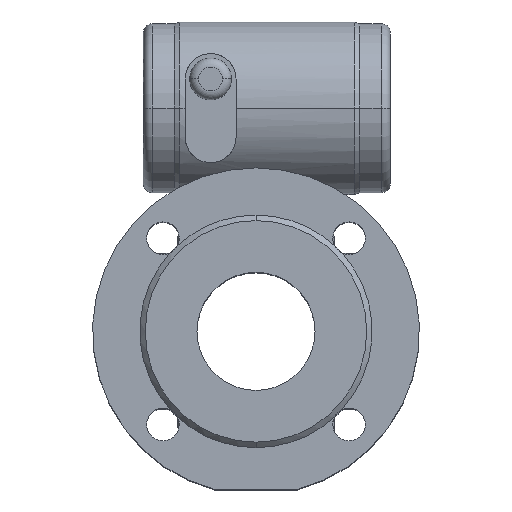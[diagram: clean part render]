
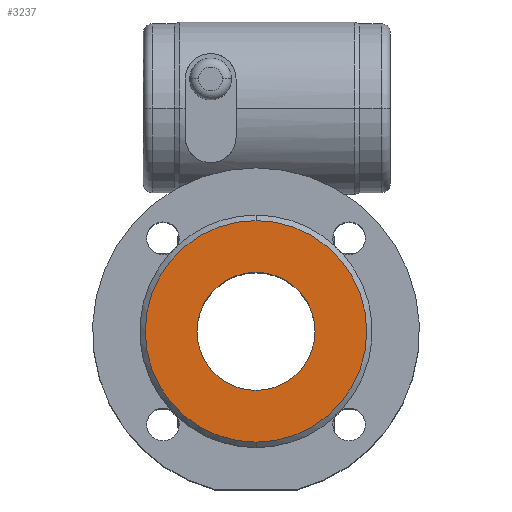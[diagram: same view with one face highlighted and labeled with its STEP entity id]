
A CAD part, top view. The second image highlights one B-rep face of the part: STEP entity #3237.
In plain terms, the highlighted planar face has unit normal (0, 0, 1).
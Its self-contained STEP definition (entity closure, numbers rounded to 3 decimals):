
#667 = AXIS2_PLACEMENT_3D ( 'NONE', #3539, #3540, #3544 ) ;
#785 = DIRECTION ( 'NONE',  ( 0., 1., 0. ) ) ;
#792 = DIRECTION ( 'NONE',  ( 0., 0., -1. ) ) ;
#795 = CARTESIAN_POINT ( 'NONE',  ( 0., 0., 15. ) ) ;
#858 = DIRECTION ( 'NONE',  ( 0., 1., 0. ) ) ;
#937 = FACE_BOUND ( 'NONE', #1924, .T. ) ;
#940 = VERTEX_POINT ( 'NONE', #5232 ) ;
#1095 = CARTESIAN_POINT ( 'NONE',  ( 0., 32.5, 15. ) ) ;
#1302 = EDGE_CURVE ( 'NONE', #940, #4432, #5949, .T. ) ;
#1336 = DIRECTION ( 'NONE',  ( 0., 0., -1. ) ) ;
#1707 = AXIS2_PLACEMENT_3D ( 'NONE', #5739, #1336, #858 ) ;
#1788 = AXIS2_PLACEMENT_3D ( 'NONE', #5269, #5266, #5260 ) ;
#1801 = VERTEX_POINT ( 'NONE', #3681 ) ;
#1804 = ORIENTED_EDGE ( 'NONE', *, *, #1302, .F. ) ;
#1924 = EDGE_LOOP ( 'NONE', ( #2901, #5524 ) ) ;
#2078 = CIRCLE ( 'NONE', #4386, 32.5 ) ;
#2124 = AXIS2_PLACEMENT_3D ( 'NONE', #2199, #2422, #5358 ) ;
#2199 = CARTESIAN_POINT ( 'NONE',  ( 0., 32.5, 15. ) ) ;
#2227 = FACE_OUTER_BOUND ( 'NONE', #5192, .T. ) ;
#2422 = DIRECTION ( 'NONE',  ( 0., 0., 1. ) ) ;
#2736 = EDGE_CURVE ( 'NONE', #1801, #3203, #2078, .T. ) ;
#2804 = CARTESIAN_POINT ( 'NONE',  ( 0., -61., 15. ) ) ;
#2901 = ORIENTED_EDGE ( 'NONE', *, *, #5975, .T. ) ;
#3203 = VERTEX_POINT ( 'NONE', #1095 ) ;
#3237 = ADVANCED_FACE ( 'NONE', ( #937, #2227 ), #5100, .T. ) ;
#3442 = CIRCLE ( 'NONE', #667, 61. ) ;
#3539 = CARTESIAN_POINT ( 'NONE',  ( 0., 0., 15. ) ) ;
#3540 = DIRECTION ( 'NONE',  ( 0., 0., -1. ) ) ;
#3544 = DIRECTION ( 'NONE',  ( 0., 1., 0. ) ) ;
#3681 = CARTESIAN_POINT ( 'NONE',  ( 0., -32.5, 15. ) ) ;
#4386 = AXIS2_PLACEMENT_3D ( 'NONE', #795, #792, #785 ) ;
#4432 = VERTEX_POINT ( 'NONE', #2804 ) ;
#4580 = EDGE_CURVE ( 'NONE', #4432, #940, #3442, .T. ) ;
#4679 = ORIENTED_EDGE ( 'NONE', *, *, #4580, .F. ) ;
#5100 = PLANE ( 'NONE',  #2124 ) ;
#5103 = CIRCLE ( 'NONE', #1707, 32.5 ) ;
#5192 = EDGE_LOOP ( 'NONE', ( #1804, #4679 ) ) ;
#5232 = CARTESIAN_POINT ( 'NONE',  ( 0., 61., 15. ) ) ;
#5260 = DIRECTION ( 'NONE',  ( 0., 1., 0. ) ) ;
#5266 = DIRECTION ( 'NONE',  ( 0., 0., -1. ) ) ;
#5269 = CARTESIAN_POINT ( 'NONE',  ( 0., 0., 15. ) ) ;
#5358 = DIRECTION ( 'NONE',  ( 0., -1., 0. ) ) ;
#5524 = ORIENTED_EDGE ( 'NONE', *, *, #2736, .T. ) ;
#5739 = CARTESIAN_POINT ( 'NONE',  ( 0., 0., 15. ) ) ;
#5949 = CIRCLE ( 'NONE', #1788, 61. ) ;
#5975 = EDGE_CURVE ( 'NONE', #3203, #1801, #5103, .T. ) ;
